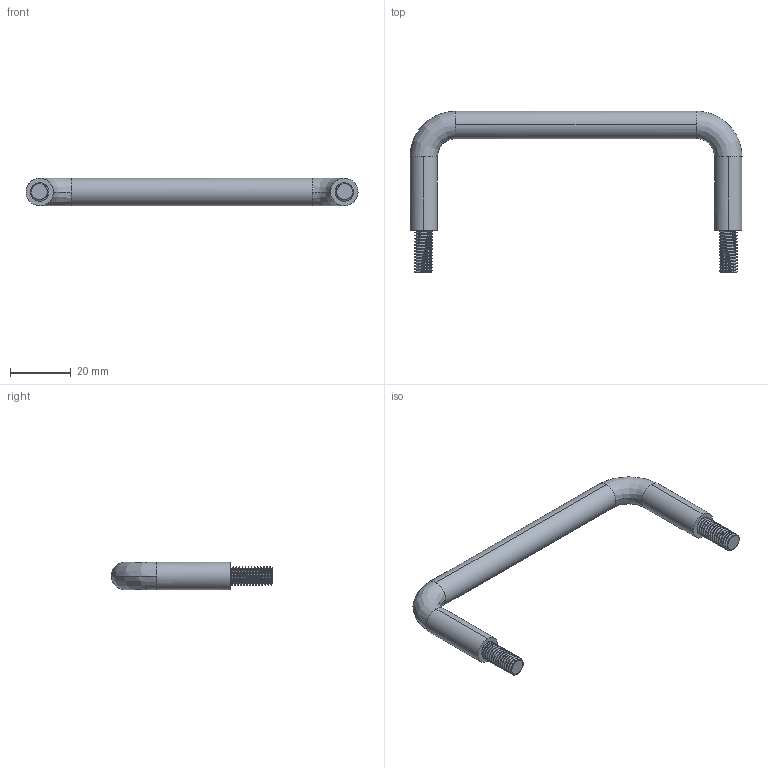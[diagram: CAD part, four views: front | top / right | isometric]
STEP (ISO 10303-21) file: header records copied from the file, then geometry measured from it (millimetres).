
FILE_DESCRIPTION(/* description */ (''),/* implementation_level */ '2;1');
FILE_NAME(/* name */ 'A-42-B ㄇ型拉手',/* time_stamp */ '2024-10-23T06:46:33+08:00',/* author */ (''),/* organization */ (''),/* preprocessor_version */ 'ST-DEVELOPER v16.5',/* originating_system */ 'Rhino 7.25',/* authorisation */ '');
FILE_SCHEMA (('CONFIG_CONTROL_DESIGN'));
Length unit declared in the file: millimetre
Products named in the file (1): Document
Bounding box: 109 x 53 x 9 mm (x, y, z)
Volume: 10815.5 mm3; surface area: 5422.7 mm2
Topology: 1 solids, 1 shells, 82 faces, 232 edges, 154 vertices
Faces by surface type: cylinder 64, bspline 14, plane 4
Entity records: 7564 total; most frequent: CARTESIAN_POINT 6086, ORIENTED_EDGE 464, EDGE_CURVE 232, VERTEX_POINT 154, EDGE_LOOP 84, ADVANCED_FACE 82, FACE_OUTER_BOUND 82, B_SPLINE_CURVE_WITH_KNOTS 82
